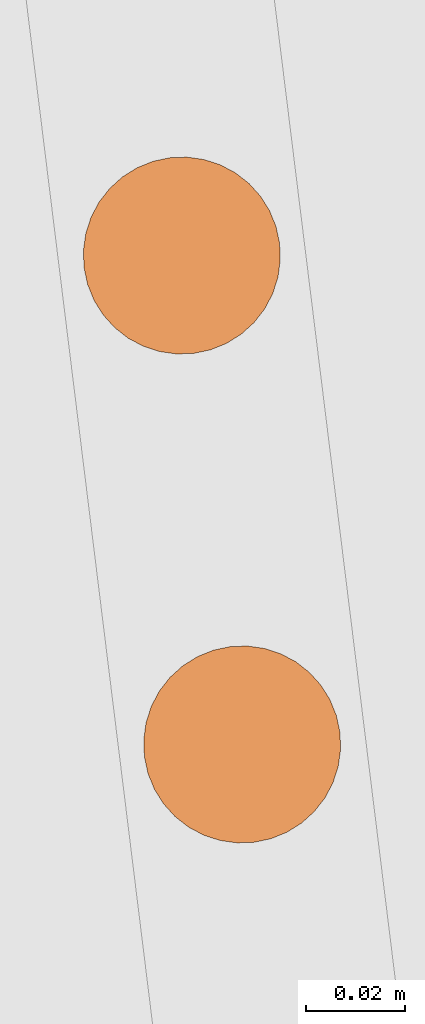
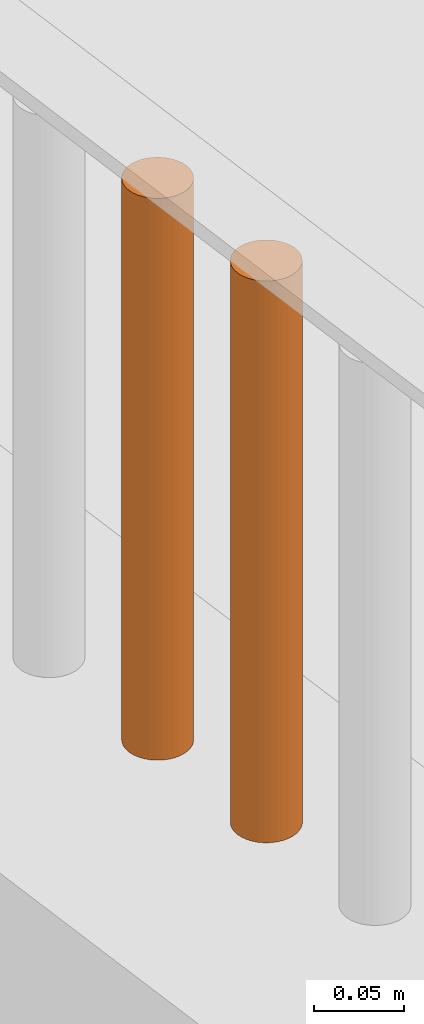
# One storey, part 128 of 1809: 2 proxies, 1 element without a shape of its own.
"""IFC2X3 building model written with IfcOpenShell, lengths in millimetres."""

from ifc_helpers import new_model, entity, si_unit, converted_unit, derived_unit, money_unit, direction, frame, origin_with_axes, place, context, subcontext, project, spatial, faceted_brep, source, transform, mapped, material, type_object, element, aggregate, save


model = new_model("IFC2X3")

# Units and contexts
model_context = context("Model", 3, precision=0.01, world=origin_with_axes(), true_north=direction((0.0, 1.0)))
body_context = subcontext(model_context, "Body", "Model", "MODEL_VIEW")
ifc_project = project(units=[si_unit("LENGTHUNIT", "METRE", prefix="MILLI"), si_unit("AREAUNIT", "SQUARE_METRE"), si_unit("VOLUMEUNIT", "CUBIC_METRE"), converted_unit("PLANEANGLEUNIT", "DEGREE", entity("IfcPlaneAngleMeasure", 0.0174532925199), si_unit("PLANEANGLEUNIT", "RADIAN"), dimensions=[0, 0, 0, 0, 0, 0, 0]), si_unit("SOLIDANGLEUNIT", "STERADIAN"), money_unit("EUR"), converted_unit("TIMEUNIT", "Year", entity("IfcTimeMeasure", 31556926.0), si_unit("TIMEUNIT", "SECOND"), dimensions=[0, 0, 1, 0, 0, 0, 0]), si_unit("MASSUNIT", "GRAM", prefix="KILO"), si_unit("THERMODYNAMICTEMPERATUREUNIT", "DEGREE_CELSIUS"), si_unit("LUMINOUSINTENSITYUNIT", "LUMEN"), si_unit("ENERGYUNIT", "JOULE", prefix="MEGA"), derived_unit("THERMALCONDUCTANCEUNIT", [(si_unit("POWERUNIT", "WATT"), 1), (si_unit("LENGTHUNIT", "METRE"), -1), (si_unit("THERMODYNAMICTEMPERATUREUNIT", "KELVIN"), -1)]), derived_unit("SPECIFICHEATCAPACITYUNIT", [(si_unit("ENERGYUNIT", "JOULE"), 1), (si_unit("MASSUNIT", "GRAM", prefix="KILO"), -1), (si_unit("THERMODYNAMICTEMPERATUREUNIT", "KELVIN"), -1)]), derived_unit("MASSDENSITYUNIT", [(si_unit("MASSUNIT", "GRAM", prefix="KILO"), 1), (si_unit("VOLUMEUNIT", "CUBIC_METRE"), -1)])], contexts=[model_context])

# Site, building, storey
site_placement = place(None, origin_with_axes())
site = spatial("IfcSite", under=ifc_project, at=site_placement, Name="Politse- ja Piirivalveameti ning Päästeameti ühishoone", CompositionType="ELEMENT")
building_placement = place(site_placement, origin_with_axes())
building = spatial("IfcBuilding", under=site, at=building_placement, Name="Politse- ja Piirivalveameti ning Päästeameti ühishoone", CompositionType="ELEMENT")
storey_placement = place(building_placement, origin_with_axes())
storey = spatial("IfcBuildingStorey", under=building, at=storey_placement, Name="Esimene korrus", CompositionType="ELEMENT", Elevation=0.0)

# Proxies
building_element_proxy_type_1 = type_object("IfcBuildingElementProxyType", Name="Railing Type", PredefinedType="NOTDEFINED")
proxy_1_placement = place(storey_placement, frame((-18956.5522504, -53688.4757966, 2100.0), z_axis=(0.0, 0.0, 1.0), x_axis=(1.0, 0.0, 0.0)))
proxy_1 = element("IfcBuildingElementProxy", 1, at=proxy_1_placement, inside=storey, type_object=building_element_proxy_type_1, Name="PIIRDEAED")
ifc_material = material(Name="ET-06_Teras - Konstruktsioon")
building_element_proxy_type_2 = type_object("IfcBuildingElementProxyType", Name="IfcBuildingElementProxy", PredefinedType="NOTDEFINED")
shared_shape_1 = source(origin_with_axes(), body_context, "Body", "Brep", [
    faceted_brep([(0.0, -20.0, 0.0), (3.47296355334, -19.6961550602, 0.0), (3.47296355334, -19.6961550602, 380.000012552), (0.0, -20.0, 380.000012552), (-3.47296355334, -19.6961550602, 0.0), (-6.84040286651, -18.7938524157, 0.0), (-10.0, -17.3205080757, 0.0), (-12.8557521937, -15.3208888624, 0.0), (-15.3208888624, -12.8557521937, 0.0), (-17.3205080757, -10.0, 0.0), (-18.7938524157, -6.84040286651, 0.0), (-19.6961550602, -3.47296355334, 0.0), (-20.0, 0.0, 0.0), (-19.6961550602, 3.47296355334, 0.0), (-18.7938524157, 6.84040286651, 0.0), (-17.3205080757, 10.0, 0.0), (-15.3208888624, 12.8557521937, 0.0), (-12.8557521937, 15.3208888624, 0.0), (-10.0, 17.3205080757, 0.0), (-6.84040286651, 18.7938524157, 0.0), (-3.47296355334, 19.6961550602, 0.0), (0.0, 20.0, 0.0), (3.47296355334, 19.6961550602, 0.0), (6.84040286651, 18.7938524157, 0.0), (10.0, 17.3205080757, 0.0), (12.8557521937, 15.3208888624, 0.0), (15.3208888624, 12.8557521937, 0.0), (17.3205080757, 10.0, 0.0), (18.7938524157, 6.84040286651, 0.0), (19.6961550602, 3.47296355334, 0.0), (20.0, 0.0, 0.0), (19.6961550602, -3.47296355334, 0.0), (18.7938524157, -6.84040286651, 0.0), (17.3205080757, -10.0, 0.0), (15.3208888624, -12.8557521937, 0.0), (12.8557521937, -15.3208888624, 0.0), (10.0, -17.3205080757, 0.0), (6.84040286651, -18.7938524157, 0.0), (6.84040286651, -18.7938524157, 380.000012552), (10.0, -17.3205080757, 380.000012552), (12.8557521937, -15.3208888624, 380.000012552), (15.3208888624, -12.8557521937, 380.000012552), (17.3205080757, -10.0, 380.000012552), (18.7938524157, -6.84040286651, 380.000012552), (19.6961550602, -3.47296355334, 380.000012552), (20.0, 0.0, 380.000012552), (19.6961550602, 3.47296355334, 380.000012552), (18.7938524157, 6.84040286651, 380.000012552), (17.3205080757, 10.0, 380.000012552), (15.3208888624, 12.8557521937, 380.000012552), (12.8557521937, 15.3208888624, 380.000012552), (10.0, 17.3205080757, 380.000012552), (6.84040286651, 18.7938524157, 380.000012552), (3.47296355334, 19.6961550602, 380.000012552), (0.0, 20.0, 380.000012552), (-3.47296355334, 19.6961550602, 380.000012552), (-6.84040286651, 18.7938524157, 380.000012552), (-10.0, 17.3205080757, 380.000012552), (-12.8557521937, 15.3208888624, 380.000012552), (-15.3208888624, 12.8557521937, 380.000012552), (-17.3205080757, 10.0, 380.000012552), (-18.7938524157, 6.84040286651, 380.000012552), (-19.6961550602, 3.47296355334, 380.000012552), (-20.0, 0.0, 380.000012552), (-19.6961550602, -3.47296355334, 380.000012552), (-18.7938524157, -6.84040286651, 380.000012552), (-17.3205080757, -10.0, 380.000012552), (-15.3208888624, -12.8557521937, 380.000012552), (-12.8557521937, -15.3208888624, 380.000012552), (-10.0, -17.3205080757, 380.000012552), (-6.84040286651, -18.7938524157, 380.000012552), (-3.47296355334, -19.6961550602, 380.000012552)], [[[0, 1, 2, 3]], [[0, 4, 5, 6, 7, 8, 9, 10, 11, 12, 13, 14, 15, 16, 17, 18, 19, 20, 21, 22, 23, 24, 25, 26, 27, 28, 29, 30, 31, 32, 33, 34, 35, 36, 37, 1]], [[1, 37, 38, 2]], [[3, 2, 38, 39, 40, 41, 42, 43, 44, 45, 46, 47, 48, 49, 50, 51, 52, 53, 54, 55, 56, 57, 58, 59, 60, 61, 62, 63, 64, 65, 66, 67, 68, 69, 70, 71]], [[4, 0, 3, 71]], [[5, 4, 71, 70]], [[6, 5, 70, 69]], [[7, 6, 69, 68]], [[8, 7, 68, 67]], [[9, 8, 67, 66]], [[10, 9, 66, 65]], [[11, 10, 65, 64]], [[12, 11, 64, 63]], [[13, 12, 63, 62]], [[14, 13, 62, 61]], [[15, 14, 61, 60]], [[16, 15, 60, 59]], [[17, 16, 59, 58]], [[18, 17, 58, 57]], [[19, 18, 57, 56]], [[20, 19, 56, 55]], [[21, 20, 55, 54]], [[22, 21, 54, 53]], [[23, 22, 53, 52]], [[24, 23, 52, 51]], [[25, 24, 51, 50]], [[26, 25, 50, 49]], [[27, 26, 49, 48]], [[28, 27, 48, 47]], [[29, 28, 47, 46]], [[30, 29, 46, 45]], [[31, 30, 45, 44]], [[32, 31, 44, 43]], [[33, 32, 43, 42]], [[34, 33, 42, 41]], [[35, 34, 41, 40]], [[36, 35, 40, 39]], [[37, 36, 39, 38]]]),
])
proxy_2_placement = place(proxy_1_placement, frame((-3938.80218545, 31076.2819127, -1.25517001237e-05), z_axis=(0.0, 0.0, 1.0), x_axis=(1.0, 0.0, 0.0)))
proxy_2 = element("IfcBuildingElementProxy", 2, at=proxy_2_placement, type_object=building_element_proxy_type_2, material=ifc_material, Name="BALUSTER - 001", context=body_context, shape_type="MappedRepresentation", body=[
    mapped(shared_shape_1, transform((0.0, 0.0, 0.0), x_axis=(0.992468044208, 0.122503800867, 0.0), y_axis=(-0.122503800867, 0.992468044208, 0.0), z_axis=(0.0, 0.0, 1.0))),
])
shared_shape_2 = source(origin_with_axes(), body_context, "Body", "Brep", [
    faceted_brep([(0.0, -20.0, 0.0), (3.47296355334, -19.6961550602, 0.0), (3.47296355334, -19.6961550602, 380.000012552), (0.0, -20.0, 380.000012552), (-3.47296355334, -19.6961550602, 0.0), (-6.84040286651, -18.7938524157, 0.0), (-10.0, -17.3205080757, 0.0), (-12.8557521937, -15.3208888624, 0.0), (-15.3208888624, -12.8557521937, 0.0), (-17.3205080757, -10.0, 0.0), (-18.7938524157, -6.84040286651, 0.0), (-19.6961550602, -3.47296355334, 0.0), (-20.0, 0.0, 0.0), (-19.6961550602, 3.47296355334, 0.0), (-18.7938524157, 6.84040286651, 0.0), (-17.3205080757, 10.0, 0.0), (-15.3208888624, 12.8557521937, 0.0), (-12.8557521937, 15.3208888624, 0.0), (-10.0, 17.3205080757, 0.0), (-6.84040286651, 18.7938524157, 0.0), (-3.47296355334, 19.6961550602, 0.0), (0.0, 20.0, 0.0), (3.47296355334, 19.6961550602, 0.0), (6.84040286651, 18.7938524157, 0.0), (10.0, 17.3205080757, 0.0), (12.8557521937, 15.3208888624, 0.0), (15.3208888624, 12.8557521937, 0.0), (17.3205080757, 10.0, 0.0), (18.7938524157, 6.84040286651, 0.0), (19.6961550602, 3.47296355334, 0.0), (20.0, 0.0, 0.0), (19.6961550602, -3.47296355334, 0.0), (18.7938524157, -6.84040286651, 0.0), (17.3205080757, -10.0, 0.0), (15.3208888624, -12.8557521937, 0.0), (12.8557521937, -15.3208888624, 0.0), (10.0, -17.3205080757, 0.0), (6.84040286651, -18.7938524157, 0.0), (6.84040286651, -18.7938524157, 380.000012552), (10.0, -17.3205080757, 380.000012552), (12.8557521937, -15.3208888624, 380.000012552), (15.3208888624, -12.8557521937, 380.000012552), (17.3205080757, -10.0, 380.000012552), (18.7938524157, -6.84040286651, 380.000012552), (19.6961550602, -3.47296355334, 380.000012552), (20.0, 0.0, 380.000012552), (19.6961550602, 3.47296355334, 380.000012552), (18.7938524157, 6.84040286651, 380.000012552), (17.3205080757, 10.0, 380.000012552), (15.3208888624, 12.8557521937, 380.000012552), (12.8557521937, 15.3208888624, 380.000012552), (10.0, 17.3205080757, 380.000012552), (6.84040286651, 18.7938524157, 380.000012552), (3.47296355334, 19.6961550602, 380.000012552), (0.0, 20.0, 380.000012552), (-3.47296355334, 19.6961550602, 380.000012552), (-6.84040286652, 18.7938524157, 380.000012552), (-10.0, 17.3205080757, 380.000012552), (-12.8557521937, 15.3208888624, 380.000012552), (-15.3208888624, 12.8557521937, 380.000012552), (-17.3205080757, 10.0, 380.000012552), (-18.7938524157, 6.84040286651, 380.000012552), (-19.6961550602, 3.47296355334, 380.000012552), (-20.0, 0.0, 380.000012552), (-19.6961550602, -3.47296355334, 380.000012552), (-18.7938524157, -6.84040286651, 380.000012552), (-17.3205080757, -10.0, 380.000012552), (-15.3208888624, -12.8557521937, 380.000012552), (-12.8557521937, -15.3208888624, 380.000012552), (-10.0, -17.3205080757, 380.000012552), (-6.84040286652, -18.7938524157, 380.000012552), (-3.47296355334, -19.6961550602, 380.000012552)], [[[0, 1, 2, 3]], [[0, 4, 5, 6, 7, 8, 9, 10, 11, 12, 13, 14, 15, 16, 17, 18, 19, 20, 21, 22, 23, 24, 25, 26, 27, 28, 29, 30, 31, 32, 33, 34, 35, 36, 37, 1]], [[1, 37, 38, 2]], [[3, 2, 38, 39, 40, 41, 42, 43, 44, 45, 46, 47, 48, 49, 50, 51, 52, 53, 54, 55, 56, 57, 58, 59, 60, 61, 62, 63, 64, 65, 66, 67, 68, 69, 70, 71]], [[4, 0, 3, 71]], [[5, 4, 71, 70]], [[6, 5, 70, 69]], [[7, 6, 69, 68]], [[8, 7, 68, 67]], [[9, 8, 67, 66]], [[10, 9, 66, 65]], [[11, 10, 65, 64]], [[12, 11, 64, 63]], [[13, 12, 63, 62]], [[14, 13, 62, 61]], [[15, 14, 61, 60]], [[16, 15, 60, 59]], [[17, 16, 59, 58]], [[18, 17, 58, 57]], [[19, 18, 57, 56]], [[20, 19, 56, 55]], [[21, 20, 55, 54]], [[22, 21, 54, 53]], [[23, 22, 53, 52]], [[24, 23, 52, 51]], [[25, 24, 51, 50]], [[26, 25, 50, 49]], [[27, 26, 49, 48]], [[28, 27, 48, 47]], [[29, 28, 47, 46]], [[30, 29, 46, 45]], [[31, 30, 45, 44]], [[32, 31, 44, 43]], [[33, 32, 43, 42]], [[34, 33, 42, 41]], [[35, 34, 41, 40]], [[36, 35, 40, 39]], [[37, 36, 39, 38]]]),
])
proxy_3_placement = place(proxy_1_placement, frame((-3951.04989036, 31175.5070441, -1.25517001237e-05), z_axis=(0.0, 0.0, 1.0), x_axis=(1.0, 0.0, 0.0)))
proxy_3 = element("IfcBuildingElementProxy", 3, at=proxy_3_placement, type_object=building_element_proxy_type_2, material=ifc_material, Name="BALUSTER - 001", context=body_context, shape_type="MappedRepresentation", body=[
    mapped(shared_shape_2, transform((0.0, 0.0, 0.0), x_axis=(0.992468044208, 0.122503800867, 0.0), y_axis=(-0.122503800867, 0.992468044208, 0.0), z_axis=(0.0, 0.0, 1.0))),
])
aggregate(proxy_1, [proxy_2, proxy_3])

save(model, "model.ifc")
